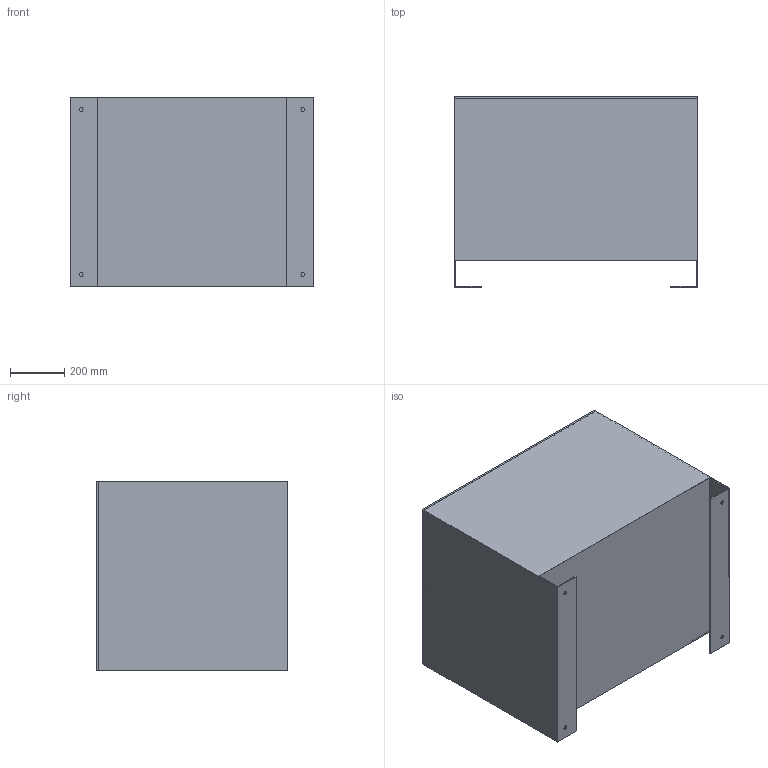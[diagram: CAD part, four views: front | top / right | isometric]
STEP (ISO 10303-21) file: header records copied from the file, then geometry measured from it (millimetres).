
FILE_DESCRIPTION((''),'2;1');
FILE_NAME('STP250','2017-04-01T',('passonicorrado'),('FAI FILTRI s:r.l.'),'PRO/ENGINEER BY PARAMETRIC TECHNOLOGY CORPORATION, 2010180','PRO/ENGINEER BY PARAMETRIC TECHNOLOGY CORPORATION, 2010180','');
FILE_SCHEMA(('CONFIG_CONTROL_DESIGN'));
Length unit declared in the file: millimetre
Products named in the file (1): STP250
Bounding box: 900 x 708.1 x 700 mm (x, y, z)
Volume: 16245793 mm3; surface area: 6905136.2 mm2
Topology: 2 solids, 2 shells, 33 faces, 84 edges, 56 vertices
Faces by surface type: plane 25, cylinder 8
Entity records: 1046 total; most frequent: CARTESIAN_POINT 173, ORIENTED_EDGE 168, DIRECTION 166, EDGE_CURVE 84, VECTOR 68, LINE 68, VERTEX_POINT 56, AXIS2_PLACEMENT_3D 49
